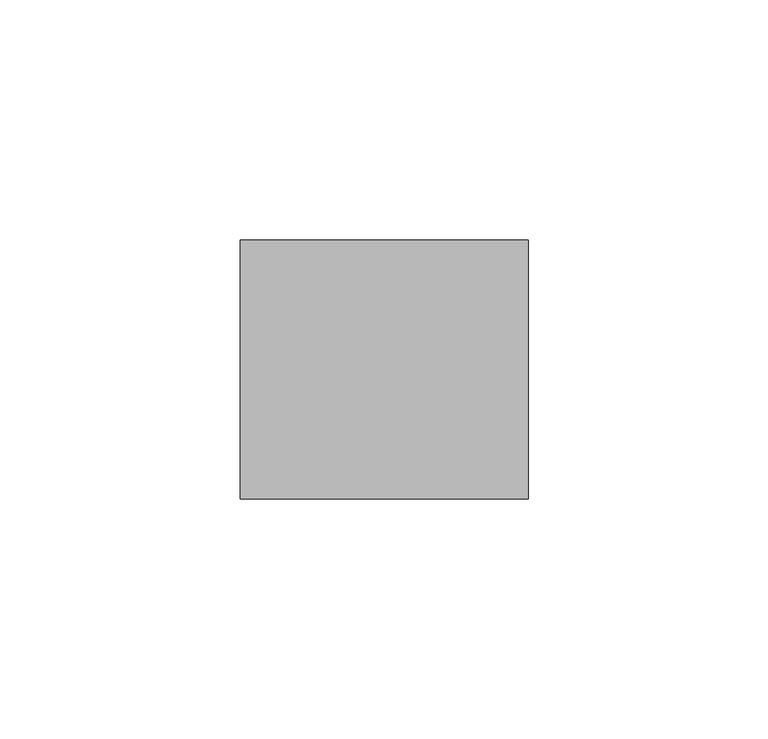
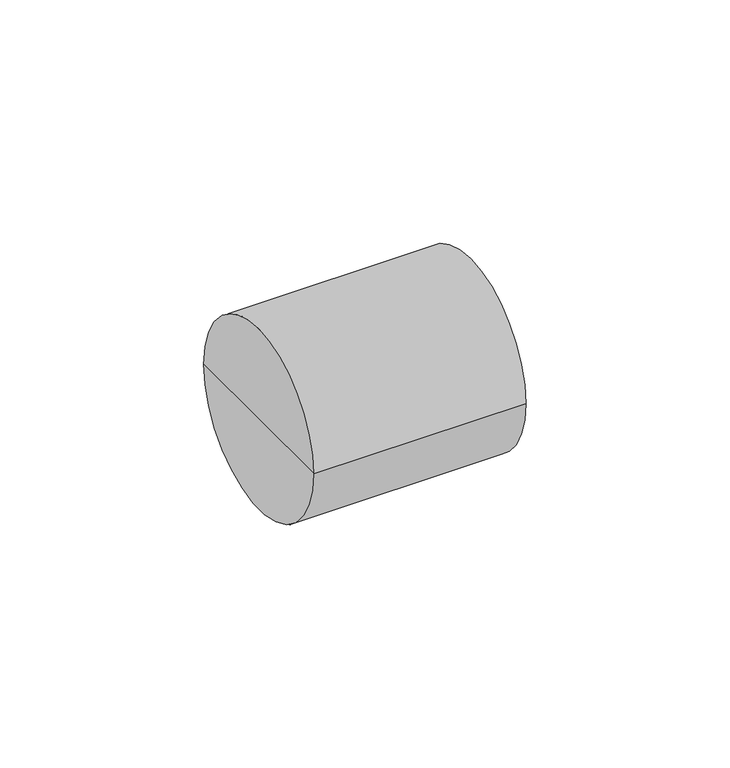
"""IFC4 building model written with IfcOpenShell, lengths in millimetres: cable carrier fitting geometry, Муфта для гофрированных труб, прозрачная GFLEX D ИЭК : CTA10D-GFLEX50-K08-020."""

from ifc_helpers import new_model, si_unit, frame, origin, place, context, project, spatial, circle_curve, source, transform, mapped, element, save
from ifc_brep_helpers import plane_surface, cylinder_surface, advanced_brep


def cable_carrier_fitting_33a13964(model_context):
    return source(origin(), model_context, "Body", "AdvancedBrep", [
        advanced_brep(
        [(-30.0, -27.0, 0.0), (-30.0, 27.0, 0.0), (30.0, 27.0, 0.0), (30.0, -27.0, 0.0), (-30.0, 0.0, 0.0), (30.0, 0.0, 0.0)],
        [
            (0, 1, circle_curve(frame((-30.0, 0.0, 0.0), z_axis=(1.0, 0.0, 0.0), x_axis=(0.0, 1.0, 0.0)), 27.0)),
            (1, 2),
            (2, 3, circle_curve(frame((30.0, 0.0, 0.0), z_axis=(-1.0, 0.0, 0.0), x_axis=(0.0, 1.0, 0.0)), 27.0)),
            (3, 0),
            (1, 0, circle_curve(frame((-30.0, 0.0, 0.0), z_axis=(1.0, 0.0, 0.0), x_axis=(0.0, 1.0, 0.0)), 27.0)),
            (3, 2, circle_curve(frame((30.0, 0.0, 0.0), z_axis=(-1.0, 0.0, 0.0), x_axis=(0.0, 1.0, 0.0)), 27.0)),
            (4, 1),
            (0, 4),
            (2, 5),
            (5, 3),
        ],
        [
            cylinder_surface(frame((1955.0, 0.0, 0.0), z_axis=(-1.0, 0.0, 0.0), x_axis=(0.0, 1.0, 0.0)), 27.0),
            plane_surface(frame((-30.0, 0.0, 0.0), z_axis=(-1.0, 0.0, 0.0), x_axis=(0.0, 1.0, 0.0))),
            plane_surface(frame((30.0, 0.0, 0.0), z_axis=(1.0, 0.0, 0.0), x_axis=(0.0, 1.0, 0.0))),
        ],
        [
            (0, [[1, 2, 3, 4]]),
            (0, [[5, -4, 6, -2]]),
            (1, [[7, -1, 8]]),
            (1, [[-8, -5, -7]]),
            (2, [[-3, 9, 10]]),
            (2, [[-6, -10, -9]]),
        ],
    ),
    ])


if __name__ == "__main__":
    model = new_model("IFC4")
    model_context = context("Model", 3, world=origin())
    ifc_project = project(units=[si_unit("LENGTHUNIT", "METRE", prefix="MILLI")], contexts=[model_context])
    site = spatial("IfcSite", under=ifc_project)
    building = spatial("IfcBuilding", under=site)
    placement = place(None, origin())
    cable_carrier_fitting_shape = cable_carrier_fitting_33a13964(model_context)
    element("IfcCableCarrierFitting", 1, ObjectType="Муфта для гофрированных труб, прозрачная GFLEX D ИЭК : CTA10D-GFLEX50-K08-020", at=placement, inside=building, context=model_context, shape_type="MappedRepresentation", body=[
        mapped(cable_carrier_fitting_shape, transform((0.0, 0.0, 0.0), x_axis=(1.0, 0.0, 0.0), y_axis=(0.0, 1.0, 0.0), z_axis=(0.0, 0.0, 1.0))),
    ])
    save(model, "model.ifc")
